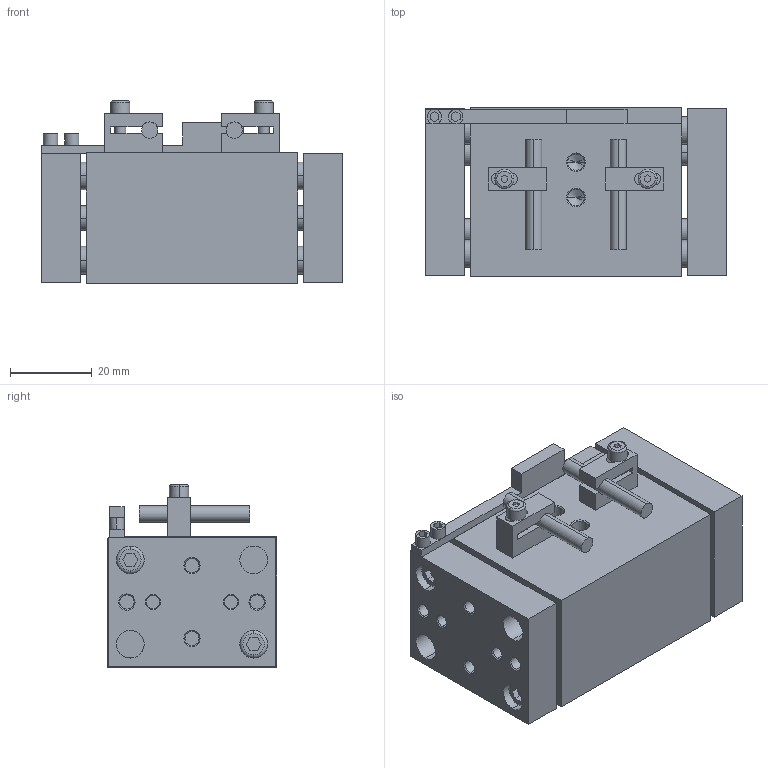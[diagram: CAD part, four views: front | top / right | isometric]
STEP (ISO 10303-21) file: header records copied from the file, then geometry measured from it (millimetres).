
FILE_DESCRIPTION (( 'STEP AP203' ), '1' );
FILE_NAME ('AGW-250 CLOSED in MM.STEP', '2014-11-03T14:40:10', ( 'setup' ), ( '' ), 'SwSTEP 2.0', 'SolidWorks 2013', '' );
FILE_SCHEMA (( 'CONFIG_CONTROL_DESIGN' ));
Length unit declared in the file: millimetre
Products named in the file (8): AGW-250 SENSOR; AGW-250 PROD; AGW-250 GUIDE ROD; AGW-250 SENSOR FLAG; AGW-250 CLOSED in MM; AGW-250 BODY; AGW-250 TOOL PLATE; AGW-250 SENSOR BLOCK
Assembly tree (16 placements, depth 2):
  AGW-250 CLOSED in MM
    AGW-250 BODY
    AGW-250 TOOL PLATE  x2
    AGW-250 SENSOR BLOCK  x2
    AGW-250 SENSOR  x2
    AGW-250 PROD  x4
    AGW-250 GUIDE ROD  x4
    AGW-250 SENSOR FLAG
Bounding box: 73.66 x 41.27 x 44.45 mm (x, y, z)
Volume: 92236.5 mm3; surface area: 38953.2 mm2
Topology: 20 solids, 20 shells, 370 faces, 884 edges, 552 vertices
Faces by surface type: plane 164, cylinder 134, cone 60, torus 12
Entity records: 7980 total; most frequent: DIRECTION 1264, CARTESIAN_POINT 1249, ORIENTED_EDGE 1096, EDGE_CURVE 548, AXIS2_PLACEMENT_3D 469, VERTEX_POINT 346, LINE 326, VECTOR 326
